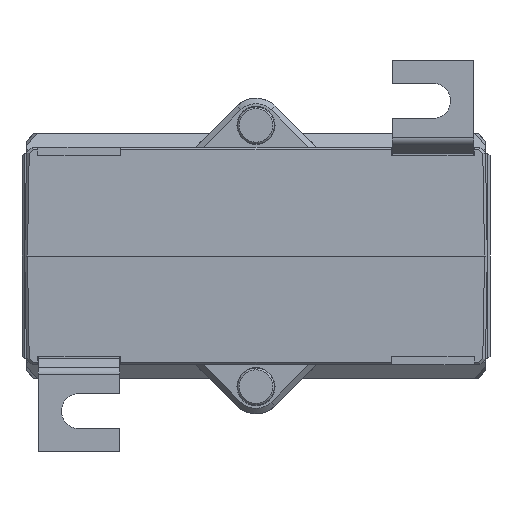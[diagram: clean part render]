
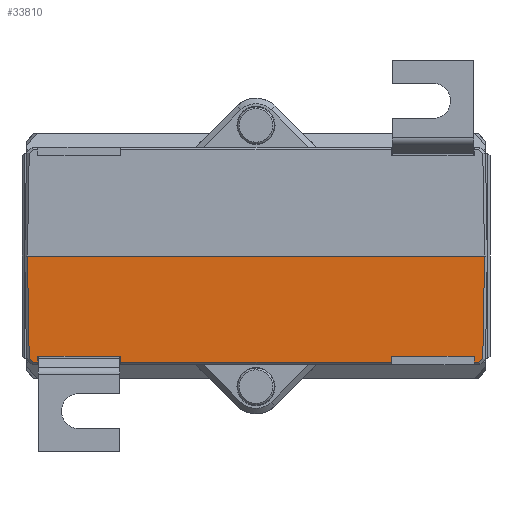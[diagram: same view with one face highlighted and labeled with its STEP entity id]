
A CAD part, front view. The second image highlights one B-rep face of the part: STEP entity #33810.
In plain terms, the highlighted planar face has unit normal (0, -1, -0.018).
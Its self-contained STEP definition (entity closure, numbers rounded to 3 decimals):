
#815=PLANE('',#35894);
#2360=FACE_OUTER_BOUND('',#4221,.T.);
#4221=EDGE_LOOP('',(#24504,#24505,#24506,#24507,#24508,#24509,#24510,#24511,
#24512,#24513,#24514,#24515,#24516,#24517));
#7931=LINE('',#54012,#11502);
#7932=LINE('',#54014,#11503);
#7933=LINE('',#54016,#11504);
#7934=LINE('',#54018,#11505);
#7935=LINE('',#54020,#11506);
#7936=LINE('',#54022,#11507);
#7937=LINE('',#54024,#11508);
#7938=LINE('',#54026,#11509);
#7939=LINE('',#54028,#11510);
#7940=LINE('',#54030,#11511);
#7941=LINE('',#54032,#11512);
#7942=LINE('',#54034,#11513);
#7943=LINE('',#54036,#11514);
#7944=LINE('',#54037,#11515);
#11502=VECTOR('',#39584,1000.);
#11503=VECTOR('',#39585,1000.);
#11504=VECTOR('',#39586,1000.);
#11505=VECTOR('',#39587,1000.);
#11506=VECTOR('',#39588,1000.);
#11507=VECTOR('',#39589,1000.);
#11508=VECTOR('',#39590,1000.);
#11509=VECTOR('',#39591,1000.);
#11510=VECTOR('',#39592,1000.);
#11511=VECTOR('',#39593,1000.);
#11512=VECTOR('',#39594,1000.);
#11513=VECTOR('',#39595,1000.);
#11514=VECTOR('',#39596,1000.);
#11515=VECTOR('',#39597,1000.);
#15133=VERTEX_POINT('',#54010);
#15134=VERTEX_POINT('',#54011);
#15135=VERTEX_POINT('',#54013);
#15136=VERTEX_POINT('',#54015);
#15137=VERTEX_POINT('',#54017);
#15138=VERTEX_POINT('',#54019);
#15139=VERTEX_POINT('',#54021);
#15140=VERTEX_POINT('',#54023);
#15141=VERTEX_POINT('',#54025);
#15142=VERTEX_POINT('',#54027);
#15143=VERTEX_POINT('',#54029);
#15144=VERTEX_POINT('',#54031);
#15145=VERTEX_POINT('',#54033);
#15146=VERTEX_POINT('',#54035);
#18687=EDGE_CURVE('',#15133,#15134,#7931,.T.);
#18688=EDGE_CURVE('',#15134,#15135,#7932,.T.);
#18689=EDGE_CURVE('',#15135,#15136,#7933,.T.);
#18690=EDGE_CURVE('',#15137,#15136,#7934,.T.);
#18691=EDGE_CURVE('',#15137,#15138,#7935,.T.);
#18692=EDGE_CURVE('',#15139,#15138,#7936,.T.);
#18693=EDGE_CURVE('',#15139,#15140,#7937,.T.);
#18694=EDGE_CURVE('',#15141,#15140,#7938,.T.);
#18695=EDGE_CURVE('',#15142,#15141,#7939,.T.);
#18696=EDGE_CURVE('',#15143,#15142,#7940,.T.);
#18697=EDGE_CURVE('',#15143,#15144,#7941,.T.);
#18698=EDGE_CURVE('',#15144,#15145,#7942,.T.);
#18699=EDGE_CURVE('',#15145,#15146,#7943,.T.);
#18700=EDGE_CURVE('',#15133,#15146,#7944,.T.);
#24504=ORIENTED_EDGE('',*,*,#18687,.T.);
#24505=ORIENTED_EDGE('',*,*,#18688,.T.);
#24506=ORIENTED_EDGE('',*,*,#18689,.T.);
#24507=ORIENTED_EDGE('',*,*,#18690,.F.);
#24508=ORIENTED_EDGE('',*,*,#18691,.T.);
#24509=ORIENTED_EDGE('',*,*,#18692,.F.);
#24510=ORIENTED_EDGE('',*,*,#18693,.T.);
#24511=ORIENTED_EDGE('',*,*,#18694,.F.);
#24512=ORIENTED_EDGE('',*,*,#18695,.F.);
#24513=ORIENTED_EDGE('',*,*,#18696,.F.);
#24514=ORIENTED_EDGE('',*,*,#18697,.T.);
#24515=ORIENTED_EDGE('',*,*,#18698,.T.);
#24516=ORIENTED_EDGE('',*,*,#18699,.T.);
#24517=ORIENTED_EDGE('',*,*,#18700,.F.);
#33810=ADVANCED_FACE('',(#2360),#815,.T.);
#35894=AXIS2_PLACEMENT_3D('',#54009,#39582,#39583);
#39582=DIRECTION('center_axis',(0.,-1.,
-0.017));
#39583=DIRECTION('ref_axis',(0.,-0.017,
1.));
#39584=DIRECTION('',(0.017,0.017,-1.));
#39585=DIRECTION('',(0.719,0.012,-0.695));
#39586=DIRECTION('',(1.,0.,0.));
#39587=DIRECTION('',(-0.009,0.017,-1.));
#39588=DIRECTION('',(1.,0.,0.));
#39589=DIRECTION('',(-0.009,-0.017,1.));
#39590=DIRECTION('',(1.,0.,0.));
#39591=DIRECTION('',(-0.009,0.017,-1.));
#39592=DIRECTION('',(-1.,0.,0.));
#39593=DIRECTION('',(-0.009,-0.017,1.));
#39594=DIRECTION('',(1.,0.,0.));
#39595=DIRECTION('',(0.719,-0.012,0.695));
#39596=DIRECTION('',(0.017,-0.017,1.));
#39597=DIRECTION('',(1.,0.,0.));
#54009=CARTESIAN_POINT('Origin',(42.5,-43.25,0.));
#54010=CARTESIAN_POINT('',(-42.,-43.25,0.));
#54011=CARTESIAN_POINT('',(-41.672,-42.922,-18.775));
#54012=CARTESIAN_POINT('',(-41.974,-43.224,-1.474));
#54013=CARTESIAN_POINT('',(-40.922,-42.91,-19.5));
#54014=CARTESIAN_POINT('',(-40.781,-42.907,-19.636));
#54015=CARTESIAN_POINT('',(-40.118,-42.91,-19.5));
#54016=CARTESIAN_POINT('',(41.133,-42.91,-19.5));
#54017=CARTESIAN_POINT('',(-40.108,-42.929,-18.4));
#54018=CARTESIAN_POINT('',(-39.941,-43.263,0.719));
#54019=CARTESIAN_POINT('',(-24.892,-42.929,-18.4));
#54020=CARTESIAN_POINT('',(42.5,-42.929,-18.4));
#54021=CARTESIAN_POINT('',(-24.882,-42.91,-19.5));
#54022=CARTESIAN_POINT('',(-25.047,-43.24,-0.589));
#54023=CARTESIAN_POINT('',(24.882,-42.91,-19.5));
#54024=CARTESIAN_POINT('',(41.133,-42.91,-19.5));
#54025=CARTESIAN_POINT('',(24.892,-42.929,-18.4));
#54026=CARTESIAN_POINT('',(25.054,-43.253,0.152));
#54027=CARTESIAN_POINT('',(40.108,-42.929,-18.4));
#54028=CARTESIAN_POINT('',(42.5,-42.929,-18.4));
#54029=CARTESIAN_POINT('',(40.118,-42.91,-19.5));
#54030=CARTESIAN_POINT('',(39.948,-43.25,-0.022));
#54031=CARTESIAN_POINT('',(40.922,-42.91,-19.5));
#54032=CARTESIAN_POINT('',(41.133,-42.91,-19.5));
#54033=CARTESIAN_POINT('',(41.672,-42.922,-18.776));
#54034=CARTESIAN_POINT('',(41.817,-42.925,-18.636));
#54035=CARTESIAN_POINT('',(42.,-43.25,0.));
#54036=CARTESIAN_POINT('',(42.,-43.25,0.009));
#54037=CARTESIAN_POINT('',(-42.5,-43.25,0.));
